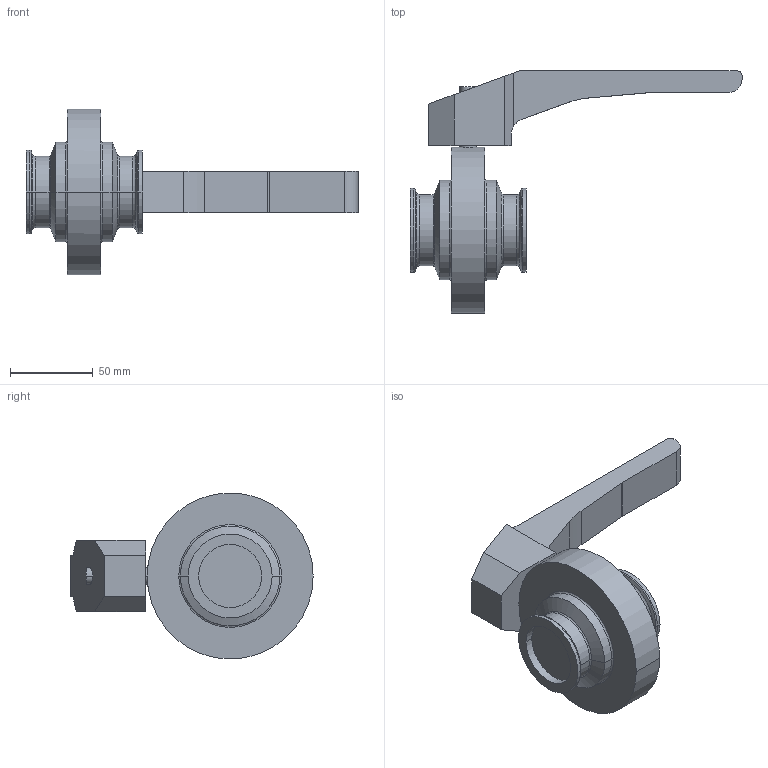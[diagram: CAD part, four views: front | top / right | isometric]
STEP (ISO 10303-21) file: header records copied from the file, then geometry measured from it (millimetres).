
FILE_DESCRIPTION(('OneSpaceDesigner STEP Export'),'2;1');
FILE_NAME('SV1-40-H-12CL.stp','2007-04-19T14:44:06',(''),(''),'OneSpace Designer STEP processor for AP214 (Solid Model)','OneSpace Modeling 15.00 06-Feb-2007 (C) CoCreate Software GmbH','');
FILE_SCHEMA(('AUTOMOTIVE_DESIGN { 1 0 10303 214 1 1 1 1 }'));
Length unit declared in the file: millimetre
Products named in the file (3): SV1-40-H-12CL; Handhebel-SV-40-100; SV1-40-H-12CL-vereint
Assembly tree (2 placements, depth 2):
  SV1-40-H-12CL-vereint
    Handhebel-SV-40-100
    SV1-40-H-12CL
Bounding box: 200 x 146 x 100 mm (x, y, z)
Volume: 373476.4 mm3; surface area: 52802 mm2
Topology: 2 solids, 2 shells, 76 faces, 167 edges, 100 vertices
Faces by surface type: cylinder 27, plane 25, torus 16, cone 8
Entity records: 2283 total; most frequent: CARTESIAN_POINT 683, ORIENTED_EDGE 334, DIRECTION 303, EDGE_CURVE 167, AXIS2_PLACEMENT_3D 113, VERTEX_POINT 100, EDGE_LOOP 81, VECTOR 77
